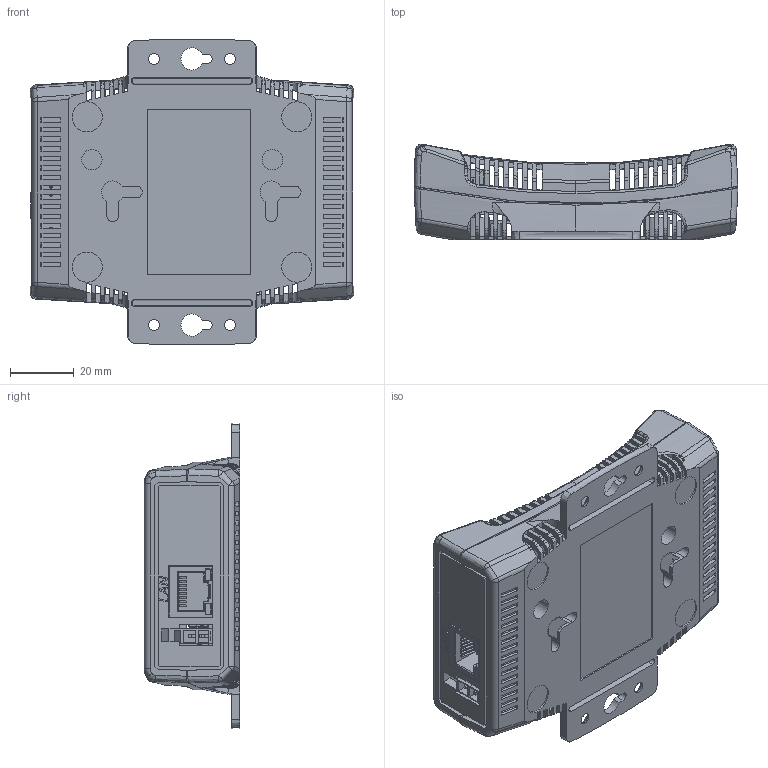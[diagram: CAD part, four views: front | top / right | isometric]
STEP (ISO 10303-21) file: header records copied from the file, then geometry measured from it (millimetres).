
FILE_DESCRIPTION(/* description */ (''),/* implementation_level */ '2;1');
FILE_NAME(/* name */ 'C:/Users/Leo/Desktop/AnyplaceUSB-S2/AnyplaceUSB-S2 Model3D LPV1.step',/* time_stamp */ '2021-05-07T09:43:44-04:00',/* author */ (''),/* organization */ (''),/* preprocessor_version */ 'ST-DEVELOPER v18.1',/* originating_system */ 'Autodesk Translation Framework v10.6.0.1341',/* authorisation */ '');
FILE_SCHEMA (('AUTOMOTIVE_DESIGN { 1 0 10303 214 3 1 1 }'));
Products named in the file (19): AnyplaceUSB-S2; Component2; Component3; Component4; LAN connector v1; HR911105A; Connector white terminal 6 v2; Component1 (1); USB Type B Single Blue v1; Download_STP_692121030100_(rev1); USB Type B Single Blue v1_1; Download_STP_692121030100_(rev1)_1; housing1; pin1 (1); housing2; pin2 (1); pin; shielding; Component38
Assembly tree (37 placements, depth 4):
  AnyplaceUSB-S2
    Component2
    Component3
    Component4
    LAN connector v1
      HR911105A
    Connector white terminal 6 v2
      Component1 (1)  x2
    USB Type B Single Blue v1
      Download_STP_692121030100_(rev1)
        housing1
        pin1 (1)  x5
        housing2
        pin2 (1)  x2
        pin  x2
        shielding
    USB Type B Single Blue v1_1
      Download_STP_692121030100_(rev1)_1
        housing1
        pin1 (1)  x5
        housing2
        pin2 (1)  x2
        pin  x2
        shielding
    Component38
Bounding box: 102 x 30.04 x 96.29 mm (x, y, z)
Volume: 45025.5 mm3; surface area: 66699.2 mm2
Topology: 3 solids, 23 shells, 3804 faces, 11291 edges, 7295 vertices
Faces by surface type: plane 2586, cylinder 637, bspline 533, cone 28, sphere 20
Full cylindrical faces by diameter (mm): 0.8 x8, 1 x4, 2.4 x1, 3.5 x4, 6.4 x2, 8.4 x2, 9.5 x4
Entity records: 149782 total; most frequent: CARTESIAN_POINT 50217, ORIENTED_EDGE 22544, DIRECTION 17845, EDGE_CURVE 11272, LINE 8091, VECTOR 8091, VERTEX_POINT 7296, AXIS2_PLACEMENT_3D 4877
